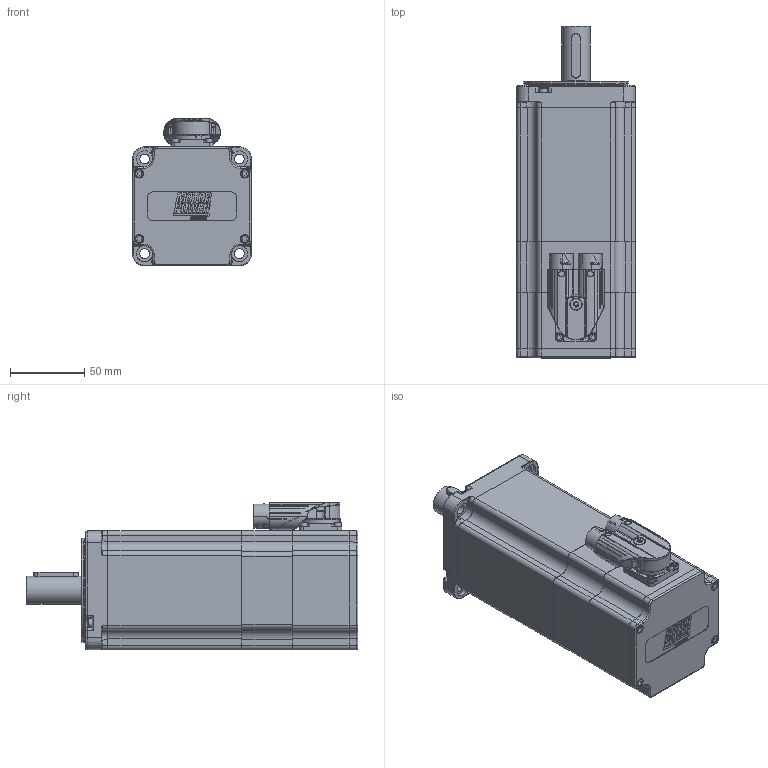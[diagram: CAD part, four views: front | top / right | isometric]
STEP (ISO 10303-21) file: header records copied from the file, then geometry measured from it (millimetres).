
FILE_DESCRIPTION(/* description */ ('Unknown'),/* implementation_level */ '2;1');
FILE_NAME(/* name */ 'TC4-80.3C.XX.X.3.M1.1.1.G11.33.80 Q0D211',/* time_stamp */ '2026-03-04T11:59:30+01:00',/* author */ ('Unknown'),/* organization */ ('Unknown'),/* preprocessor_version */ 'ST-DEVELOPER v19.4',/* originating_system */ 'Solid Edge',/* authorisation */ 'Unknown');
FILE_SCHEMA (('AUTOMOTIVE_DESIGN {1 0 10303 214 3 1 1}'));
Products named in the file (14): Q0D211 3C FRENO M1 VUOTO; 003103040223; 003155002201; 005119001500; 005911000192; 003107003286; 005113000500; 005117001560; 003151003154; 005911000202; 005911000185; 003003200203; 005711000130; 003251040719
Assembly tree (22 placements, depth 2):
  Q0D211 3C FRENO M1 VUOTO
    003103040223
    003155002201
    005119001500
    005911000192  x4
    003107003286
    005113000500
    005117001560
    003151003154
    005911000202  x4
    005911000185  x4
    003003200203
    005711000130
    003251040719
Bounding box: 80 x 223 x 99.25 mm (x, y, z)
Volume: 414601.4 mm3; surface area: 189276 mm2
Topology: 24 solids, 24 shells, 2735 faces, 6675 edges, 4143 vertices
Faces by surface type: plane 1016, cylinder 754, bspline 455, torus 286, cone 166, sphere 58
Full cylindrical faces by diameter (mm): 1 x21, 1.175 x12, 1.5 x1, 1.8 x5, 2 x1, 2.013 x4, 2.05 x3, 2.459 x36, 2.5 x5, 3 x8, 3.2 x5, 3.5 x14, 4 x2, 4.7 x4, 4.917 x1, 5.5 x8, 6 x6, 6.5 x4, 6.6 x4, 7 x4, 7.5 x1, 8 x1, 10 x2, 11 x4, 11.75 x1, 15 x2, 16.2 x2, 16.9 x1, 16.95 x1, 17 x1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
Entity records: 111601 total; most frequent: CARTESIAN_POINT 39222, ORIENTED_EDGE 11798, DIRECTION 10886, EDGE_CURVE 5899, AXIS2_PLACEMENT_3D 4232, VERTEX_POINT 3882, FACE_BOUND 3229, EDGE_LOOP 3204
